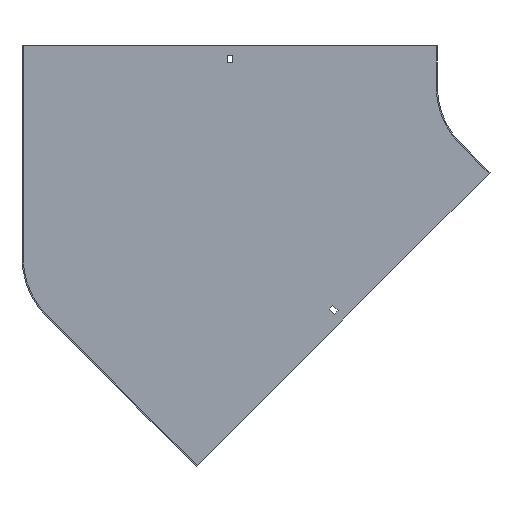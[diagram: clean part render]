
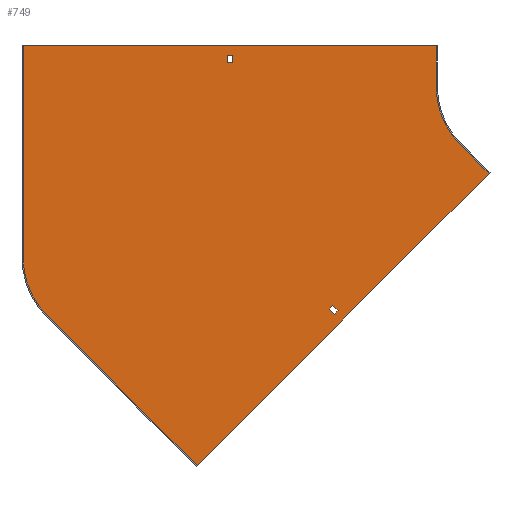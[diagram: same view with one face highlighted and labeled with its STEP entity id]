
A CAD part, front view. The second image highlights one B-rep face of the part: STEP entity #749.
In plain terms, the highlighted planar face has unit normal (0, -1, 0).
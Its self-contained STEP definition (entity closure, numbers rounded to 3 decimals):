
#2 = VERTEX_POINT ( 'NONE', #19 ) ;
#6 = VERTEX_POINT ( 'NONE', #613 ) ;
#12 = VECTOR ( 'NONE', #267, 1000. ) ;
#13 = VERTEX_POINT ( 'NONE', #813 ) ;
#18 = ORIENTED_EDGE ( 'NONE', *, *, #700, .T. ) ;
#19 = CARTESIAN_POINT ( 'NONE',  ( -348.75, -1.5, 38. ) ) ;
#43 = CARTESIAN_POINT ( 'NONE',  ( -605.5, -1.5, 50. ) ) ;
#44 = CARTESIAN_POINT ( 'NONE',  ( -348.75, -1.5, 29. ) ) ;
#54 = VERTEX_POINT ( 'NONE', #161 ) ;
#67 = VECTOR ( 'NONE', #236, 1000. ) ;
#81 = VERTEX_POINT ( 'NONE', #784 ) ;
#82 = EDGE_CURVE ( 'NONE', #354, #13, #459, .T. ) ;
#89 = CIRCLE ( 'NONE', #607, 100. ) ;
#98 = VECTOR ( 'NONE', #239, 1000. ) ;
#113 = VERTEX_POINT ( 'NONE', #301 ) ;
#118 = CARTESIAN_POINT ( 'NONE',  ( 26.87, -1.5, -26.87 ) ) ;
#123 = EDGE_CURVE ( 'NONE', #826, #214, #226, .T. ) ;
#124 = CARTESIAN_POINT ( 'NONE',  ( -100., -1.5, 50. ) ) ;
#125 = LINE ( 'NONE', #331, #844 ) ;
#141 = ORIENTED_EDGE ( 'NONE', *, *, #617, .F. ) ;
#142 = VECTOR ( 'NONE', #389, 1000. ) ;
#147 = EDGE_CURVE ( 'NONE', #6, #720, #466, .T. ) ;
#153 = LINE ( 'NONE', #283, #763 ) ;
#161 = CARTESIAN_POINT ( 'NONE',  ( -604., -1.5, -208.764 ) ) ;
#174 = VERTEX_POINT ( 'NONE', #324 ) ;
#182 = VECTOR ( 'NONE', #351, 1000. ) ;
#196 = EDGE_LOOP ( 'NONE', ( #490, #244, #18, #684 ) ) ;
#198 = DIRECTION ( 'NONE',  ( 0., 0., -1. ) ) ;
#199 = CARTESIAN_POINT ( 'NONE',  ( -246.603, -1.5, -246.603 ) ) ;
#214 = VERTEX_POINT ( 'NONE', #390 ) ;
#220 = CARTESIAN_POINT ( 'NONE',  ( -230.694, -1.5, -271.706 ) ) ;
#223 = DIRECTION ( 'NONE',  ( 0., 0., -1. ) ) ;
#224 = VECTOR ( 'NONE', #412, 1000. ) ;
#226 = LINE ( 'NONE', #443, #715 ) ;
#227 = CARTESIAN_POINT ( 'NONE',  ( 0., -1.5, 0. ) ) ;
#236 = DIRECTION ( 'NONE',  ( 1., 0., 0. ) ) ;
#237 = ORIENTED_EDGE ( 'NONE', *, *, #147, .F. ) ;
#239 = DIRECTION ( 'NONE',  ( 0.707, 0., -0.707 ) ) ;
#244 = ORIENTED_EDGE ( 'NONE', *, *, #637, .T. ) ;
#260 = CIRCLE ( 'NONE', #429, 100. ) ;
#262 = EDGE_CURVE ( 'NONE', #335, #174, #750, .T. ) ;
#263 = ORIENTED_EDGE ( 'NONE', *, *, #397, .F. ) ;
#264 = DIRECTION ( 'NONE',  ( -1., 0., 0. ) ) ;
#265 = LINE ( 'NONE', #199, #741 ) ;
#267 = DIRECTION ( 'NONE',  ( 0.707, 0., 0.707 ) ) ;
#268 = ORIENTED_EDGE ( 'NONE', *, *, #701, .F. ) ;
#271 = DIRECTION ( 'NONE',  ( 0., 0., -1. ) ) ;
#277 = EDGE_LOOP ( 'NONE', ( #424, #348, #751, #237 ) ) ;
#283 = CARTESIAN_POINT ( 'NONE',  ( -604., -1.5, -208.764 ) ) ;
#289 = CARTESIAN_POINT ( 'NONE',  ( -35.355, -1.5, -106.066 ) ) ;
#301 = CARTESIAN_POINT ( 'NONE',  ( -574.711, -1.5, -279.474 ) ) ;
#324 = CARTESIAN_POINT ( 'NONE',  ( -391.737, -1.5, -462.448 ) ) ;
#330 = DIRECTION ( 'NONE',  ( 0., 0., -1. ) ) ;
#331 = CARTESIAN_POINT ( 'NONE',  ( -70.711, -1.5, -70.711 ) ) ;
#335 = VERTEX_POINT ( 'NONE', #289 ) ;
#337 = EDGE_LOOP ( 'NONE', ( #794, #682, #141, #472, #665, #263, #268, #809 ) ) ;
#340 = LINE ( 'NONE', #502, #182 ) ;
#348 = ORIENTED_EDGE ( 'NONE', *, *, #82, .F. ) ;
#349 = CARTESIAN_POINT ( 'NONE',  ( -34.295, -1.5, -105.005 ) ) ;
#351 = DIRECTION ( 'NONE',  ( -0.707, 0., 0.707 ) ) ;
#354 = VERTEX_POINT ( 'NONE', #746 ) ;
#357 = VERTEX_POINT ( 'NONE', #421 ) ;
#371 = CARTESIAN_POINT ( 'NONE',  ( -355.25, -1.5, 29. ) ) ;
#373 = VECTOR ( 'NONE', #271, 1000. ) ;
#379 = LINE ( 'NONE', #43, #67 ) ;
#389 = DIRECTION ( 'NONE',  ( 1., 0., 0. ) ) ;
#390 = CARTESIAN_POINT ( 'NONE',  ( -355.25, -1.5, 38. ) ) ;
#391 = EDGE_CURVE ( 'NONE', #13, #6, #265, .T. ) ;
#395 = CARTESIAN_POINT ( 'NONE',  ( 20.506, -1.5, -20.506 ) ) ;
#397 = EDGE_CURVE ( 'NONE', #357, #335, #125, .T. ) ;
#412 = DIRECTION ( 'NONE',  ( -0.707, 0., -0.707 ) ) ;
#421 = CARTESIAN_POINT ( 'NONE',  ( -70.711, -1.5, -70.711 ) ) ;
#423 = PLANE ( 'NONE',  #822 ) ;
#424 = ORIENTED_EDGE ( 'NONE', *, *, #391, .F. ) ;
#429 = AXIS2_PLACEMENT_3D ( 'NONE', #543, #725, #198 ) ;
#431 = EDGE_CURVE ( 'NONE', #720, #354, #643, .T. ) ;
#437 = DIRECTION ( 'NONE',  ( 0., -1., 0. ) ) ;
#443 = CARTESIAN_POINT ( 'NONE',  ( -355.25, -1.5, 0. ) ) ;
#459 = LINE ( 'NONE', #118, #12 ) ;
#464 = VERTEX_POINT ( 'NONE', #44 ) ;
#465 = CARTESIAN_POINT ( 'NONE',  ( 0., -1.5, 29. ) ) ;
#466 = LINE ( 'NONE', #395, #594 ) ;
#472 = ORIENTED_EDGE ( 'NONE', *, *, #737, .F. ) ;
#489 = DIRECTION ( 'NONE',  ( 0., 0., 1. ) ) ;
#490 = ORIENTED_EDGE ( 'NONE', *, *, #534, .T. ) ;
#499 = DIRECTION ( 'NONE',  ( 0., 0., 1. ) ) ;
#502 = CARTESIAN_POINT ( 'NONE',  ( -391.737, -1.5, -462.448 ) ) ;
#517 = CARTESIAN_POINT ( 'NONE',  ( 0., -1.5, 38. ) ) ;
#519 = VERTEX_POINT ( 'NONE', #836 ) ;
#534 = EDGE_CURVE ( 'NONE', #214, #2, #779, .T. ) ;
#543 = CARTESIAN_POINT ( 'NONE',  ( 0., -1.5, 0. ) ) ;
#554 = DIRECTION ( 'NONE',  ( 0., 1., 0. ) ) ;
#557 = VECTOR ( 'NONE', #264, 1000. ) ;
#585 = VERTEX_POINT ( 'NONE', #764 ) ;
#594 = VECTOR ( 'NONE', #668, 1000. ) ;
#607 = AXIS2_PLACEMENT_3D ( 'NONE', #616, #554, #330 ) ;
#613 = CARTESIAN_POINT ( 'NONE',  ( -226.097, -1.5, -267.11 ) ) ;
#616 = CARTESIAN_POINT ( 'NONE',  ( -504., -1.5, -208.764 ) ) ;
#617 = EDGE_CURVE ( 'NONE', #113, #54, #89, .T. ) ;
#623 = FACE_OUTER_BOUND ( 'NONE', #337, .T. ) ;
#637 = EDGE_CURVE ( 'NONE', #2, #464, #801, .T. ) ;
#643 = LINE ( 'NONE', #834, #98 ) ;
#665 = ORIENTED_EDGE ( 'NONE', *, *, #262, .F. ) ;
#668 = DIRECTION ( 'NONE',  ( -0.707, 0., -0.707 ) ) ;
#671 = CARTESIAN_POINT ( 'NONE',  ( -348.75, -1.5, 0. ) ) ;
#681 = LINE ( 'NONE', #124, #373 ) ;
#682 = ORIENTED_EDGE ( 'NONE', *, *, #760, .F. ) ;
#684 = ORIENTED_EDGE ( 'NONE', *, *, #123, .T. ) ;
#700 = EDGE_CURVE ( 'NONE', #464, #826, #859, .T. ) ;
#701 = EDGE_CURVE ( 'NONE', #585, #357, #260, .T. ) ;
#705 = VECTOR ( 'NONE', #788, 1000. ) ;
#706 = EDGE_CURVE ( 'NONE', #81, #585, #681, .T. ) ;
#715 = VECTOR ( 'NONE', #499, 1000. ) ;
#720 = VERTEX_POINT ( 'NONE', #220 ) ;
#725 = DIRECTION ( 'NONE',  ( 0., -1., 0. ) ) ;
#735 = DIRECTION ( 'NONE',  ( -0.707, 0., 0.707 ) ) ;
#737 = EDGE_CURVE ( 'NONE', #174, #113, #340, .T. ) ;
#741 = VECTOR ( 'NONE', #735, 1000. ) ;
#746 = CARTESIAN_POINT ( 'NONE',  ( -224.33, -1.5, -278.07 ) ) ;
#749 = ADVANCED_FACE ( 'NONE', ( #820, #623, #761 ), #423, .T. ) ;
#750 = LINE ( 'NONE', #349, #224 ) ;
#751 = ORIENTED_EDGE ( 'NONE', *, *, #431, .F. ) ;
#760 = EDGE_CURVE ( 'NONE', #54, #519, #153, .T. ) ;
#761 = FACE_BOUND ( 'NONE', #196, .T. ) ;
#763 = VECTOR ( 'NONE', #489, 1000. ) ;
#764 = CARTESIAN_POINT ( 'NONE',  ( -100., -1.5, 0. ) ) ;
#779 = LINE ( 'NONE', #517, #142 ) ;
#784 = CARTESIAN_POINT ( 'NONE',  ( -100., -1.5, 50. ) ) ;
#788 = DIRECTION ( 'NONE',  ( 0., 0., -1. ) ) ;
#792 = DIRECTION ( 'NONE',  ( 0.707, 0., -0.707 ) ) ;
#794 = ORIENTED_EDGE ( 'NONE', *, *, #840, .F. ) ;
#801 = LINE ( 'NONE', #671, #705 ) ;
#809 = ORIENTED_EDGE ( 'NONE', *, *, #706, .F. ) ;
#813 = CARTESIAN_POINT ( 'NONE',  ( -219.733, -1.5, -273.474 ) ) ;
#820 = FACE_BOUND ( 'NONE', #277, .T. ) ;
#822 = AXIS2_PLACEMENT_3D ( 'NONE', #227, #437, #223 ) ;
#826 = VERTEX_POINT ( 'NONE', #371 ) ;
#834 = CARTESIAN_POINT ( 'NONE',  ( -251.2, -1.5, -251.2 ) ) ;
#836 = CARTESIAN_POINT ( 'NONE',  ( -604., -1.5, 50. ) ) ;
#840 = EDGE_CURVE ( 'NONE', #519, #81, #379, .T. ) ;
#844 = VECTOR ( 'NONE', #792, 1000. ) ;
#859 = LINE ( 'NONE', #465, #557 ) ;
